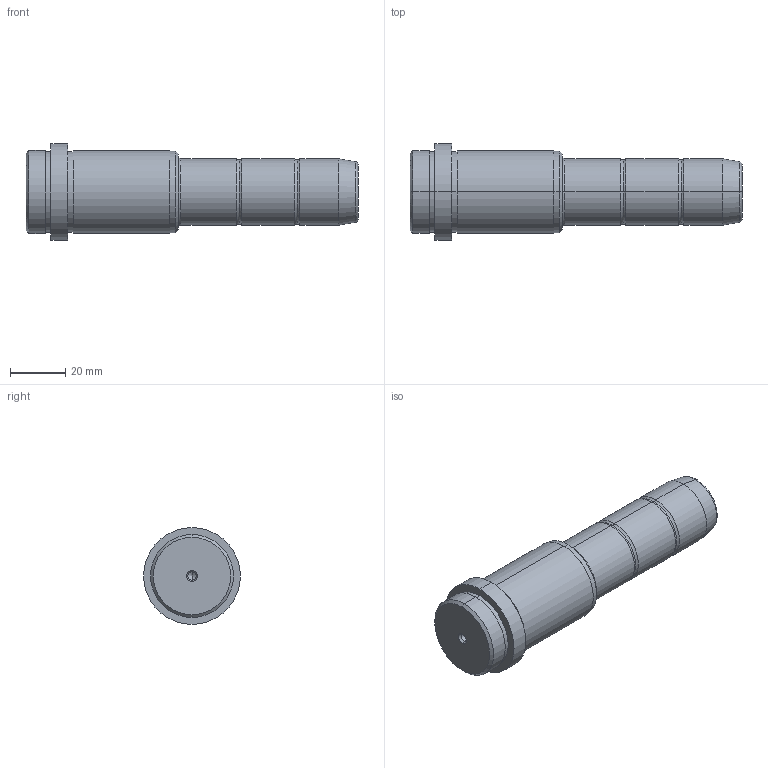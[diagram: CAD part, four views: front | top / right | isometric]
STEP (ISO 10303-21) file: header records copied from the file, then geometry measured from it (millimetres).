
FILE_DESCRIPTION( ( 'STEP AP203' ), '1' );
FILE_NAME( 'C:/Projects/D03 - 24x46x65.step', '2003-01-03T20:59:14', ( ' ' ), ( ' ' ), 'XStep 1.0', ' ', ' ' );
FILE_SCHEMA( ( 'CONFIG_CONTROL_DESIGN' ) );
Length unit declared in the file: metre
Products named in the file (1): 1
Bounding box: 120 x 35 x 35 mm (x, y, z)
Volume: 69051 mm3; surface area: 12091.1 mm2
Topology: 1 solids, 1 shells, 56 faces, 112 edges, 64 vertices
Faces by surface type: revolution 36, bspline 20
Entity records: 1691 total; most frequent: CARTESIAN_POINT 513, ORIENTED_EDGE 220, DIRECTION 218, EDGE_CURVE 110, AXIS2_PLACEMENT_3D 73, CIRCLE 72, EDGE_LOOP 64, VERTEX_POINT 64
